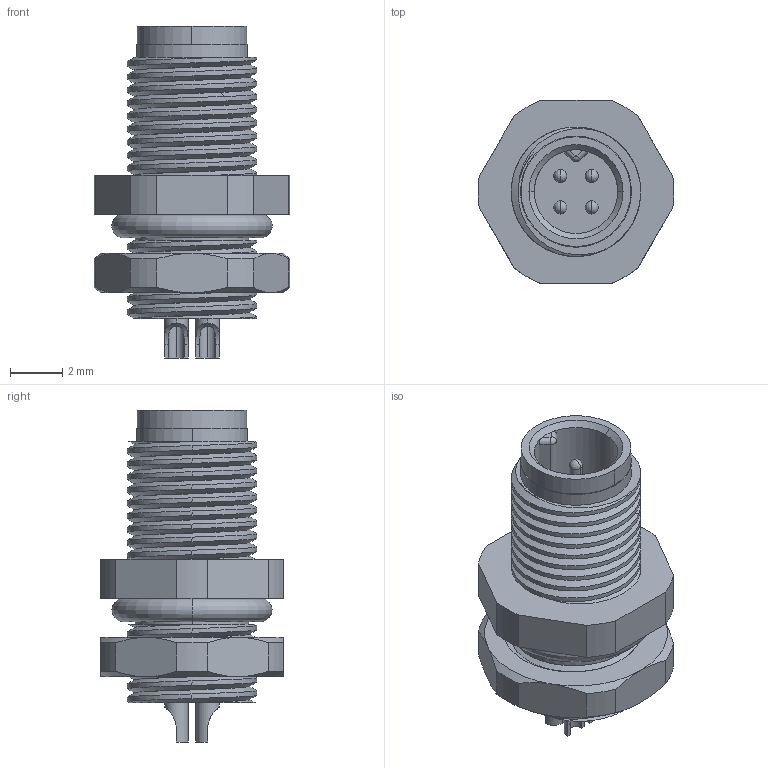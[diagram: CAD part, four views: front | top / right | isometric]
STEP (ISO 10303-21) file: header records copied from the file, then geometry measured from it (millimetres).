
FILE_DESCRIPTION (( 'STEP AP203' ), '1' );
FILE_NAME ('851-F04-103R004.STEP', '2025-07-31T14:12:15', ( '' ), ( '' ), 'SwSTEP 2.0', 'SolidWorks 2020', '' );
FILE_SCHEMA (( 'CONFIG_CONTROL_DESIGN' ));
Length unit declared in the file: millimetre
Products named in the file (1): 851-F04-103R004
Bounding box: 7.49 x 7 x 12.7 mm (x, y, z)
Volume: 233.3 mm3; surface area: 574.8 mm2
Topology: 1 solids, 1 shells, 179 faces, 471 edges, 284 vertices
Faces by surface type: cylinder 88, plane 37, bspline 31, cone 22, torus 1
Entity records: 18697 total; most frequent: CARTESIAN_POINT 14748, ORIENTED_EDGE 894, DIRECTION 660, EDGE_CURVE 447, VERTEX_POINT 284, AXIS2_PLACEMENT_3D 264, B_SPLINE_CURVE_WITH_KNOTS 200, EDGE_LOOP 195
